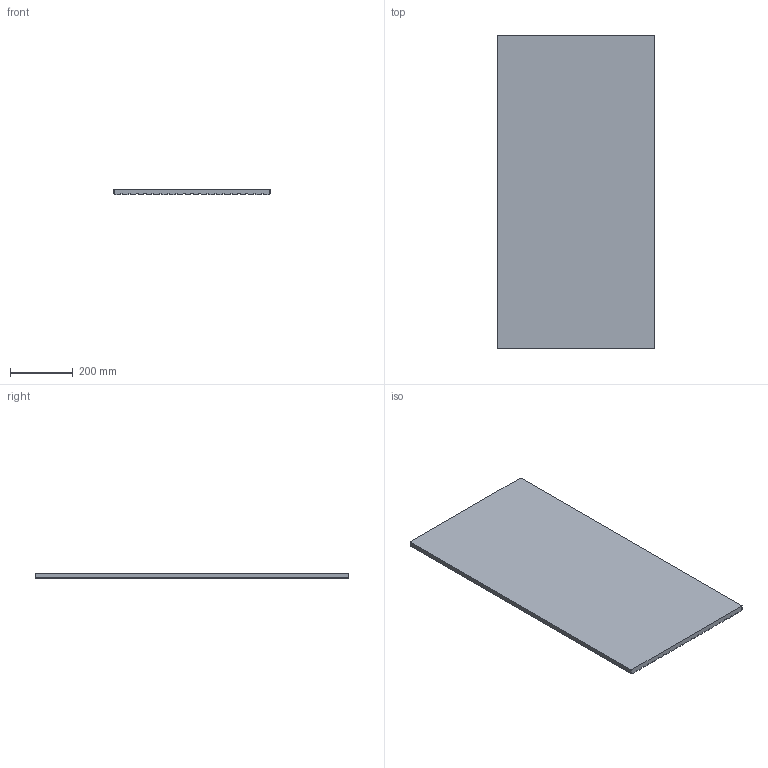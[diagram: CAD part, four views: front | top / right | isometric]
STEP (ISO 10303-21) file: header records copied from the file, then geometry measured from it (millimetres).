
FILE_DESCRIPTION(/* description */ (''),/* implementation_level */ '2;1');
FILE_NAME(/* name */ 'W104.stp',/* time_stamp */ '2024-06-11T15:47:53+02:00',/* author */ ('bzsolt'),/* organization */ (''),/* preprocessor_version */ 'ST-DEVELOPER v20',/* originating_system */ 'Autodesk Inventor 2025',/* authorisation */ '');
FILE_SCHEMA (('AUTOMOTIVE_DESIGN { 1 0 10303 214 3 1 1 }'));
Length unit declared in the file: millimetre
Products named in the file (1): W104
Bounding box: 500 x 1000 x 18 mm (x, y, z)
Volume: 8592638.2 mm3; surface area: 1132615.9 mm2
Topology: 1 solids, 1 shells, 498 faces, 1080 edges, 584 vertices
Faces by surface type: cylinder 248, plane 86, torus 84, sphere 80
Entity records: 13343 total; most frequent: DIRECTION 2658, CARTESIAN_POINT 2163, ORIENTED_EDGE 2160, EDGE_CURVE 1080, AXIS2_PLACEMENT_3D 1079, VERTEX_POINT 584, CIRCLE 580, LINE 500
